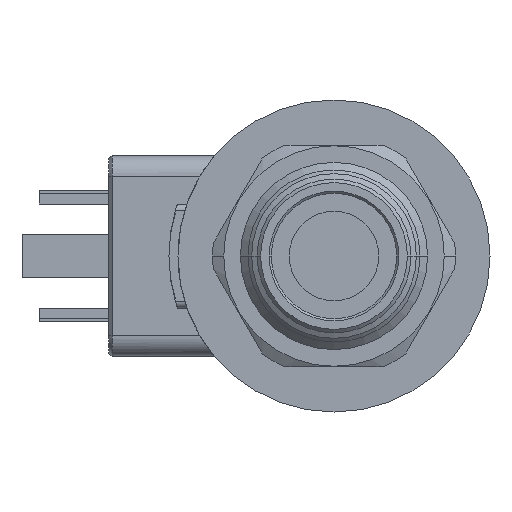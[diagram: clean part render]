
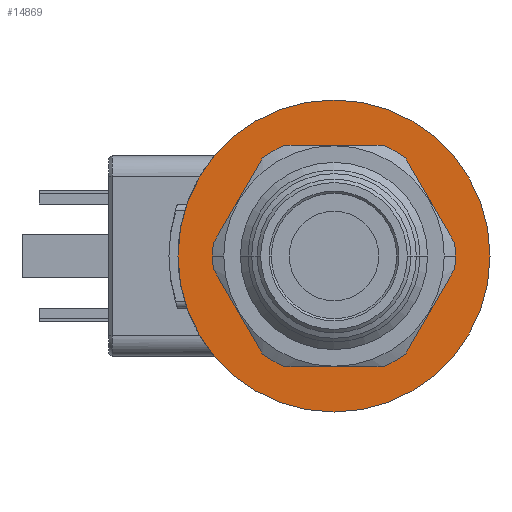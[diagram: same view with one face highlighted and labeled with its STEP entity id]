
A CAD part, left-side view. The second image highlights one B-rep face of the part: STEP entity #14869.
In plain terms, the highlighted planar face has unit normal (-1, 0, 0).
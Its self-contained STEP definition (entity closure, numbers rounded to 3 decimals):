
#13324=CARTESIAN_POINT('',(0.,0.,0.));
#13325=DIRECTION('',(-1.,0.,0.));
#13326=DIRECTION('',(0.,1.,0.));
#13327=AXIS2_PLACEMENT_3D('',#13324,#13325,#13326);
#13332=CARTESIAN_POINT('',(0.,0.,0.));
#13333=DIRECTION('',(1.,0.,0.));
#13334=DIRECTION('',(0.,1.,0.));
#13335=AXIS2_PLACEMENT_3D('',#13332,#13333,#13334);
#13340=CARTESIAN_POINT('',(0.,0.,0.));
#13341=DIRECTION('',(1.,0.,0.));
#13342=DIRECTION('',(0.,1.,0.));
#13343=AXIS2_PLACEMENT_3D('',#13340,#13341,#13342);
#13348=CARTESIAN_POINT('',(0.,0.,0.));
#13349=DIRECTION('',(1.,0.,0.));
#13350=DIRECTION('',(0.,-1.,0.));
#13351=AXIS2_PLACEMENT_3D('',#13348,#13349,#13350);
#14650=CARTESIAN_POINT('',(0.,-22.5,0.));
#14652=VERTEX_POINT('',#14650);
#14749=CARTESIAN_POINT('',(0.,22.5,0.));
#14750=VERTEX_POINT('',#14749);
#14840=CARTESIAN_POINT('',(0.,13.,0.));
#14841=CARTESIAN_POINT('',(0.,-13.,0.));
#14842=VERTEX_POINT('',#14840);
#14843=VERTEX_POINT('',#14841);
#14852=CARTESIAN_POINT('',(0.,0.,0.));
#14853=DIRECTION('',(1.,0.,0.));
#14854=DIRECTION('',(0.,-1.,0.));
#14855=AXIS2_PLACEMENT_3D('',#14852,#14853,#14854);
#14856=PLANE('',#14855);
#14858=ORIENTED_EDGE('',*,*,#14857,.F.);
#14860=ORIENTED_EDGE('',*,*,#14859,.T.);
#14861=EDGE_LOOP('',(#14858,#14860));
#14862=FACE_OUTER_BOUND('',#14861,.F.);
#14864=ORIENTED_EDGE('',*,*,#14863,.F.);
#14866=ORIENTED_EDGE('',*,*,#14865,.F.);
#14867=EDGE_LOOP('',(#14864,#14866));
#14868=FACE_BOUND('',#14867,.F.);
#13328=CIRCLE('',#13327,22.5);
#13336=CIRCLE('',#13335,22.5);
#13344=CIRCLE('',#13343,13.);
#13352=CIRCLE('',#13351,13.);
#14857=EDGE_CURVE('',#14750,#14652,#13328,.T.);
#14859=EDGE_CURVE('',#14750,#14652,#13336,.T.);
#14863=EDGE_CURVE('',#14842,#14843,#13344,.T.);
#14865=EDGE_CURVE('',#14843,#14842,#13352,.T.);
#14869=ADVANCED_FACE('',(#14862,#14868),#14856,.F.);
